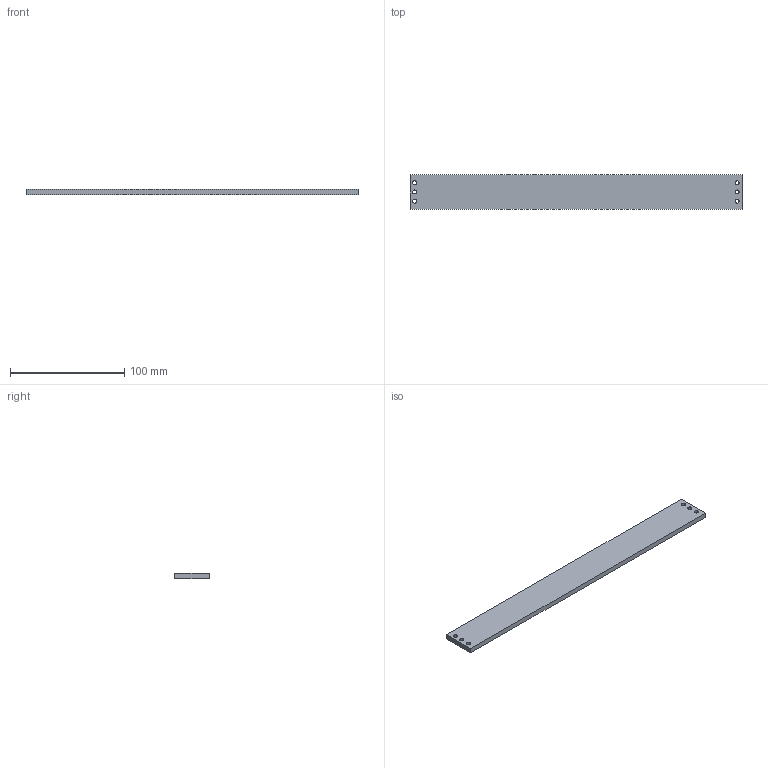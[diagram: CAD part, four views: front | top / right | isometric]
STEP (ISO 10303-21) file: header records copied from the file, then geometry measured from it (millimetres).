
FILE_DESCRIPTION(/* description */ ('STEP AP242 Edition 2','CAx-IF Rec.Pracs.---Representation and Presentation of Product Manufacturing Information (PMI)---4.0---2014-10-13','CAx-IF Rec.Pracs.---3D Tessellated Geometry---0.4---2014-09-14','2;1','CAx-IF Rec.Pracs.---User Defined Attributes---1.5---2016-08-15'),/* implementation_level */ '2;1');
FILE_NAME(/* name */ 'Enclosure - Stick T2',/* time_stamp */ '2026-11-16T09:17:37Z',/* author */ (''),/* organization */ (''),/* preprocessor_version */ 'ST-DEVELOPER v20',/* originating_system */ 'ONSHAPE BY PTC INC, 1.223',/* authorisation */ ' ');
FILE_SCHEMA (('AP242_MANAGED_MODEL_BASED_3D_ENGINEERING_MIM_LF { 1 0 10303 442 3 1 4 }'));
Length unit declared in the file: metre
Products named in the file (1): Stick T2
Bounding box: 290 x 30 x 4.5 mm (x, y, z)
Volume: 38890.2 mm3; surface area: 20461.4 mm2
Topology: 1 solids, 1 shells, 12 faces, 36 edges, 26 vertices
Faces by surface type: plane 6, cylinder 6
Full cylindrical faces by diameter (mm): 3.5 x6
Entity records: 382 total; most frequent: DIRECTION 62, CARTESIAN_POINT 57, ORIENTED_EDGE 48, EDGE_LOOP 30, FACE_BOUND 30, AXIS2_PLACEMENT_3D 25, EDGE_CURVE 24, VERTEX_POINT 20
